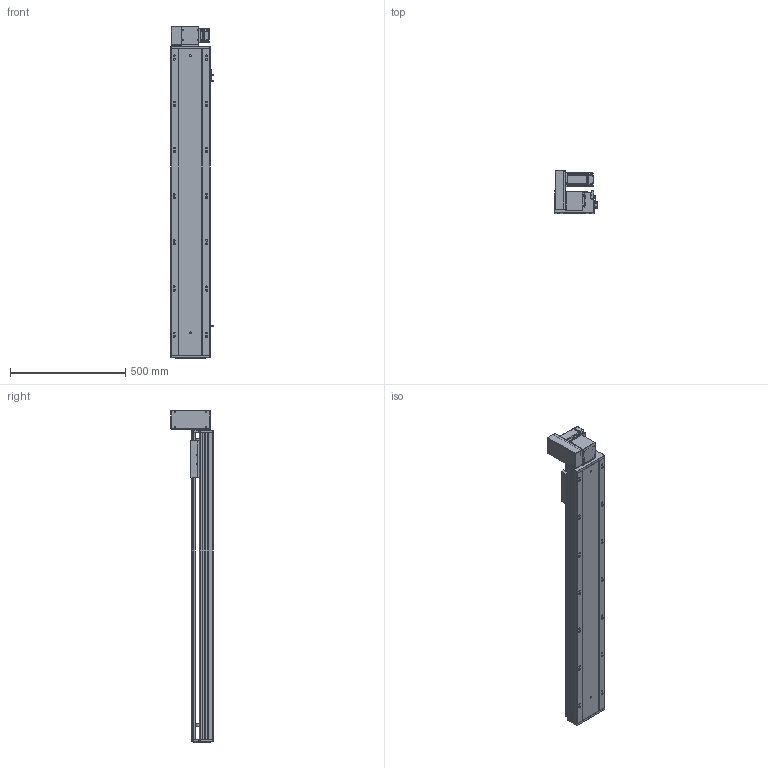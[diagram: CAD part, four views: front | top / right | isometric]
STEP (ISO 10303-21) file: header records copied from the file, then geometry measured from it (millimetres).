
FILE_DESCRIPTION (( 'STEP AP203' ), '1' );
FILE_NAME ('RY170-T-300-UL-P400W.SLDASM_1050.step', '2021-03-02T02:12:56', ( '盈信电脑' ), ( '东莞市道滘镇水果街19号' ), 'SwSTEP 2.0', 'SolidWorks 2012', '' );
FILE_SCHEMA (( 'CONFIG_CONTROL_DESIGN' ));
Products named in the file (18): RY170-T-300-UL-P400W.SLDASM_1050; RY170肮祭謫萇儂欶; RY170同步轮电机安装板(400W); RY170-T蹟翐M4; 15; RY170-T肮祭湍揤踡輸2; RY170-T肮祭謫裔啣; RY120-T主同步轮轴承压盖; 滅袉蝶18-10; RY170-T肮祭湍揤踡輸1; RY170肮祭謫ヶ裔啣; RY170翋肮祭謫釱; RY170外置感应片(200共用）; RY170綴裔啣; RY170-T-300肮祭謫倰第裔啣-DL_1050; 覜茼ん672; RY170-T-300肮祭謫倰第菁釱-DL_1050; RY170肮祭湍臏賑輸
Assembly tree (20 placements, depth 2):
  RY170-T-300-UL-P400W.SLDASM_1050
    RY170-T-300肮祭謫倰第菁釱-DL_1050
    RY170肮祭湍臏賑輸
    RY170-T-300肮祭謫倰第裔啣-DL_1050
    RY170綴裔啣
    覜茼ん672  x3
    RY170外置感应片(200共用）
    RY170肮祭謫ヶ裔啣
    RY170翋肮祭謫釱
    RY170-T肮祭湍揤踡輸1
    RY170-T肮祭湍揤踡輸2
    RY170-T肮祭謫裔啣
    滅袉蝶18-10  x2
    RY120-T主同步轮轴承压盖
    RY170肮祭謫萇儂欶
    RY170同步轮电机安装板(400W)
    RY170-T蹟翐M4
    15
Bounding box: 183.7 x 184 x 1438 mm (x, y, z)
Volume: 7091161.9 mm3; surface area: 2395846.2 mm2
Topology: 20 solids, 20 shells, 2573 faces, 7146 edges, 4569 vertices
Faces by surface type: cylinder 1154, plane 1145, cone 244, bspline 30
Entity records: 81456 total; most frequent: CARTESIAN_POINT 17938, ORIENTED_EDGE 12920, DIRECTION 12774, EDGE_CURVE 6460, AXIS2_PLACEMENT_3D 4487, VERTEX_POINT 4237, VECTOR 3800, LINE 3800
